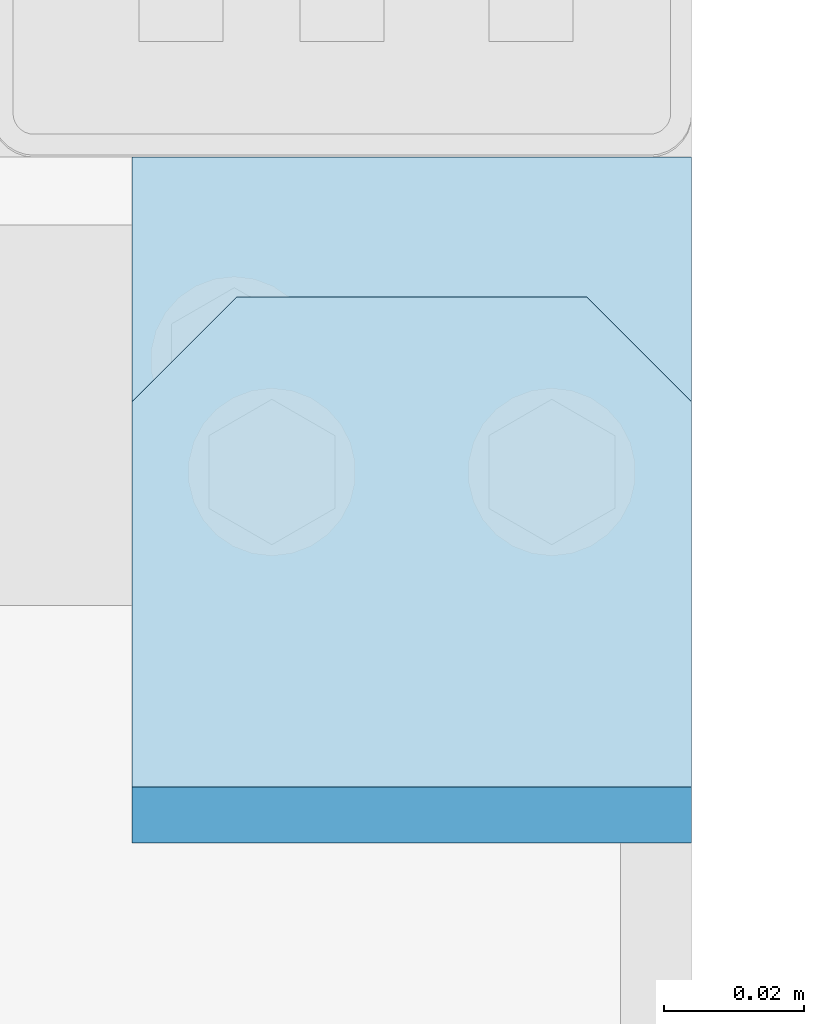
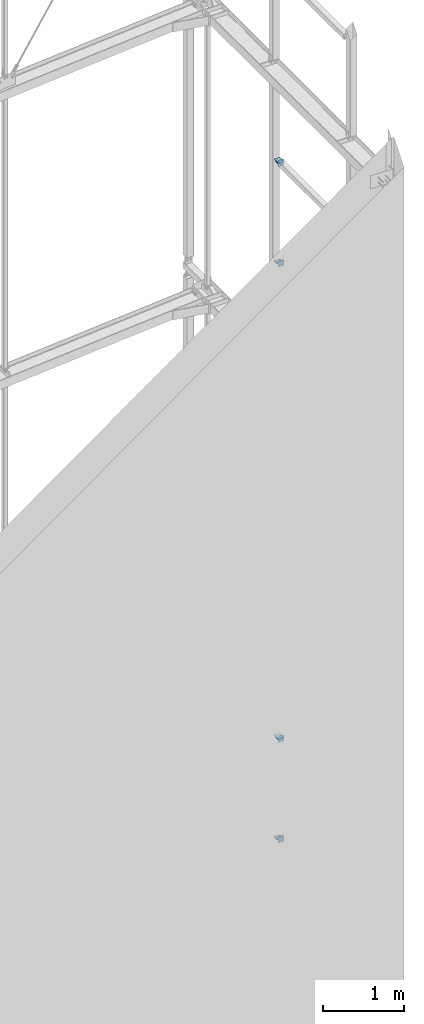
# One storey, part 174 of 271: 12 plates, 6 elements without a shape of their own.
"""IFC2X3 building model written with IfcOpenShell, lengths in millimetres."""

from ifc_helpers import new_model, si_unit, frame, origin_with_axes, place, context, subcontext, project, spatial, polyline, outline, extrude, material, type_object, element, aggregate, save


model = new_model("IFC2X3")

# Units and contexts
model_context = context("Model", 3, precision=1e-05, world=origin_with_axes())
body_context = subcontext(model_context, "Body", "Model", "MODEL_VIEW")
ifc_project = project(units=[si_unit("LENGTHUNIT", "METRE", prefix="MILLI"), si_unit("AREAUNIT", "SQUARE_METRE"), si_unit("VOLUMEUNIT", "CUBIC_METRE"), si_unit("MASSUNIT", "GRAM", prefix="KILO"), si_unit("TIMEUNIT", "SECOND"), si_unit("PLANEANGLEUNIT", "RADIAN"), si_unit("SOLIDANGLEUNIT", "STERADIAN"), si_unit("THERMODYNAMICTEMPERATUREUNIT", "DEGREE_CELSIUS"), si_unit("LUMINOUSINTENSITYUNIT", "LUMEN")], contexts=[model_context])

# Site, building, storey
site_placement = place(None, origin_with_axes())
site = spatial("IfcSite", under=ifc_project, at=site_placement, Name="Undefined", CompositionType="ELEMENT")
building_placement = place(site_placement, origin_with_axes())
building = spatial("IfcBuilding", under=site, at=building_placement, Name="Undefined", CompositionType="ELEMENT")
storey_placement = place(building_placement, origin_with_axes())
storey = spatial("IfcBuildingStorey", under=building, at=storey_placement, Name="Undefined", CompositionType="ELEMENT", Elevation=0.0)

# Assembly, plate
assembly_1_placement = place(storey_placement, origin_with_axes())
assembly_1 = element("IfcElementAssembly", 1, at=assembly_1_placement, inside=storey, AssemblyPlace="NOTDEFINED", PredefinedType="RIGID_FRAME")
ifc_material = material(Name="STEEL/S355JR")
plate_type_1 = type_object("IfcPlateType", Name="BL10*70", PredefinedType="NOTDEFINED")
plate_1_placement = place(assembly_1_placement, frame((12708.3756870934, 2714.05211980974, 2771.84999990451), z_axis=(0.0, 0.0, 1.0), x_axis=(-0.707106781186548, 0.707106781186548, 0.0)))
plate_1 = element("IfcPlate", 2, at=plate_1_placement, type_object=plate_type_1, material=ifc_material, Name="BLACHA", ObjectType="BL10*70", context=body_context, shape_type="SweptSolid", body=[
    extrude(outline(polyline([(0.0, 0.0), (21.2132034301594, 1.09139364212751e-11), (56.5685424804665, 35.3553390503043), (56.568542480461, 56.5685424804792), (17.6776695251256, 95.4594192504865), (-38.890872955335, 38.8908729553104), (0.0, 0.0)])), frame((0.0, 0.0, -5.0), z_axis=(0.0, 0.0, 1.0), x_axis=(1.0, 0.0, 0.0)), (0.0, 0.0, 1.0), 10.0),
])

assembly_2_placement = place(storey_placement, origin_with_axes())
assembly_2 = element("IfcElementAssembly", 3, at=assembly_2_placement, inside=storey, AssemblyPlace="NOTDEFINED", PredefinedType="RIGID_FRAME")
plate_2_placement = place(assembly_2_placement, frame((12708.3756870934, 2749.05211980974, 2761.84999990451), z_axis=(0.0, 0.0, 1.0), x_axis=(-1.0, 0.0, 1.38777878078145e-17)))
plate_2 = element("IfcPlate", 4, at=plate_2_placement, type_object=plate_type_1, material=ifc_material, Name="BLACHA", ObjectType="BL10*70", context=body_context, shape_type="SweptSolid", body=[
    extrude(outline(polyline([(0.0, 0.0), (80.0, 0.0), (80.0, 70.0), (0.0, 70.0), (0.0, 0.0)])), frame((0.0, 0.0, -5.0), z_axis=(0.0, 0.0, 1.0), x_axis=(1.0, 0.0, 0.0)), (0.0, 0.0, 1.0), 10.0),
])

assembly_3_placement = place(storey_placement, origin_with_axes())
assembly_3 = element("IfcElementAssembly", 5, at=assembly_3_placement, inside=storey, AssemblyPlace="NOTDEFINED", PredefinedType="RIGID_FRAME")
plate_3_placement = place(assembly_3_placement, frame((12628.3756870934, 2714.05211980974, 4276.84999990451), z_axis=(0.0, 0.0, -1.0), x_axis=(0.707106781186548, 0.707106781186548, 0.0)))
plate_3 = element("IfcPlate", 6, at=plate_3_placement, type_object=plate_type_1, material=ifc_material, Name="BLACHA", ObjectType="BL10*70", context=body_context, shape_type="SweptSolid", body=[
    extrude(outline(polyline([(0.0, 0.0), (21.2132034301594, 1.09139364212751e-11), (56.5685424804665, 35.3553390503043), (56.568542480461, 56.5685424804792), (17.6776695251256, 95.4594192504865), (-38.890872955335, 38.8908729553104), (0.0, 0.0)])), frame((0.0, 0.0, -5.0), z_axis=(0.0, 0.0, 1.0), x_axis=(1.0, 0.0, 0.0)), (0.0, 0.0, 1.0), 10.0),
])

# Plate
plate_4_placement = place(assembly_2_placement, frame((12628.3756870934, 2749.05211980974, 4286.84999990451), z_axis=(0.0, 0.0, -1.0), x_axis=(1.0, 0.0, 0.0)))
plate_4 = element("IfcPlate", 7, at=plate_4_placement, type_object=plate_type_1, material=ifc_material, Name="BLACHA", ObjectType="BL10*70", context=body_context, shape_type="SweptSolid", body=[
    extrude(outline(polyline([(0.0, 0.0), (80.0, 0.0), (80.0, 70.0), (0.0, 70.0), (0.0, 0.0)])), frame((0.0, 0.0, -5.0), z_axis=(0.0, 0.0, 1.0), x_axis=(1.0, 0.0, 0.0)), (0.0, 0.0, 1.0), 10.0),
])

aggregate(assembly_2, [plate_2, plate_4])

# Assembly, plate
assembly_4_placement = place(storey_placement, origin_with_axes())
assembly_4 = element("IfcElementAssembly", 8, at=assembly_4_placement, inside=storey, AssemblyPlace="NOTDEFINED", PredefinedType="RIGID_FRAME")
plate_5_placement = place(assembly_4_placement, frame((12708.3756870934, 2714.05211980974, 11411.8499999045), z_axis=(0.0, 0.0, 1.0), x_axis=(-0.707106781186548, 0.707106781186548, 0.0)))
plate_5 = element("IfcPlate", 9, at=plate_5_placement, type_object=plate_type_1, material=ifc_material, Name="BLACHA", ObjectType="BL10*70", context=body_context, shape_type="SweptSolid", body=[
    extrude(outline(polyline([(0.0, 0.0), (21.2132034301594, 1.09139364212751e-11), (56.5685424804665, 35.3553390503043), (56.568542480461, 56.5685424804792), (17.6776695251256, 95.4594192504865), (-38.890872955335, 38.8908729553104), (0.0, 0.0)])), frame((0.0, 0.0, -5.0), z_axis=(0.0, 0.0, 1.0), x_axis=(1.0, 0.0, 0.0)), (0.0, 0.0, 1.0), 10.0),
])

assembly_5_placement = place(storey_placement, origin_with_axes())
assembly_5 = element("IfcElementAssembly", 10, at=assembly_5_placement, inside=storey, AssemblyPlace="NOTDEFINED", PredefinedType="RIGID_FRAME")
plate_6_placement = place(assembly_5_placement, frame((12708.3756870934, 2749.05211980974, 11401.8499999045), z_axis=(0.0, 0.0, 1.0), x_axis=(-1.0, 0.0, 1.38777878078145e-17)))
plate_6 = element("IfcPlate", 11, at=plate_6_placement, type_object=plate_type_1, material=ifc_material, Name="BLACHA", ObjectType="BL10*70", context=body_context, shape_type="SweptSolid", body=[
    extrude(outline(polyline([(0.0, 0.0), (80.0, 0.0), (80.0, 70.0), (0.0, 70.0), (0.0, 0.0)])), frame((0.0, 0.0, -5.0), z_axis=(0.0, 0.0, 1.0), x_axis=(1.0, 0.0, 0.0)), (0.0, 0.0, 1.0), 10.0),
])

assembly_6_placement = place(storey_placement, origin_with_axes())
assembly_6 = element("IfcElementAssembly", 12, at=assembly_6_placement, inside=storey, AssemblyPlace="NOTDEFINED", PredefinedType="RIGID_FRAME")
plate_7_placement = place(assembly_6_placement, frame((12628.3756870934, 2714.05211980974, 12916.8499999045), z_axis=(0.0, 0.0, -1.0), x_axis=(0.707106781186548, 0.707106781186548, 0.0)))
plate_7 = element("IfcPlate", 13, at=plate_7_placement, type_object=plate_type_1, material=ifc_material, Name="BLACHA", ObjectType="BL10*70", context=body_context, shape_type="SweptSolid", body=[
    extrude(outline(polyline([(0.0, 0.0), (21.2132034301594, 1.09139364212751e-11), (56.5685424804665, 35.3553390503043), (56.568542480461, 56.5685424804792), (17.6776695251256, 95.4594192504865), (-38.890872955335, 38.8908729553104), (0.0, 0.0)])), frame((0.0, 0.0, -5.0), z_axis=(0.0, 0.0, 1.0), x_axis=(1.0, 0.0, 0.0)), (0.0, 0.0, 1.0), 10.0),
])

# Plate
plate_8_placement = place(assembly_5_placement, frame((12628.3756870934, 2749.05211980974, 12926.8499999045), z_axis=(0.0, 0.0, -1.0), x_axis=(1.0, 0.0, 0.0)))
plate_8 = element("IfcPlate", 14, at=plate_8_placement, type_object=plate_type_1, material=ifc_material, Name="BLACHA", ObjectType="BL10*70", context=body_context, shape_type="SweptSolid", body=[
    extrude(outline(polyline([(0.0, 0.0), (80.0, 0.0), (80.0, 70.0), (0.0, 70.0), (0.0, 0.0)])), frame((0.0, 0.0, -5.0), z_axis=(0.0, 0.0, 1.0), x_axis=(1.0, 0.0, 0.0)), (0.0, 0.0, 1.0), 10.0),
])

aggregate(assembly_5, [plate_6, plate_8])

plate_type_2 = type_object("IfcPlateType", Name="BL8*80", PredefinedType="NOTDEFINED")
plate_9_placement = place(assembly_1_placement, frame((12708.3756870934, 2655.05211980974, 2731.84999990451), z_axis=(0.0, 1.0, 0.0), x_axis=(-1.0, 0.0, 1.38777878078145e-17)))
plate_9 = element("IfcPlate", 15, at=plate_9_placement, type_object=plate_type_2, material=ifc_material, Name="BLACHA", ObjectType="BL8*80", context=body_context, shape_type="SweptSolid", body=[
    extrude(outline(polyline([(0.0, 0.0), (80.0, 0.0), (80.0, 80.0), (0.0, 80.0), (0.0, 0.0)])), frame((0.0, 0.0, -4.0), z_axis=(0.0, 0.0, 1.0), x_axis=(1.0, 0.0, 0.0)), (0.0, 0.0, 1.0), 8.0),
])

aggregate(assembly_1, [plate_9, plate_1])

plate_10_placement = place(assembly_3_placement, frame((12628.3756870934, 2655.05211980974, 4316.84999990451), z_axis=(0.0, 1.0, 0.0), x_axis=(1.0, 0.0, 0.0)))
plate_10 = element("IfcPlate", 16, at=plate_10_placement, type_object=plate_type_2, material=ifc_material, Name="BLACHA", ObjectType="BL8*80", context=body_context, shape_type="SweptSolid", body=[
    extrude(outline(polyline([(0.0, 0.0), (80.0, 0.0), (80.0, 80.0), (0.0, 80.0), (0.0, 0.0)])), frame((0.0, 0.0, -4.0), z_axis=(0.0, 0.0, 1.0), x_axis=(1.0, 0.0, 0.0)), (0.0, 0.0, 1.0), 8.0),
])

aggregate(assembly_3, [plate_10, plate_3])

plate_11_placement = place(assembly_4_placement, frame((12708.3756870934, 2655.05211980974, 11371.8499999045), z_axis=(0.0, 1.0, 0.0), x_axis=(-1.0, 0.0, 1.38777878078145e-17)))
plate_11 = element("IfcPlate", 17, at=plate_11_placement, type_object=plate_type_2, material=ifc_material, Name="BLACHA", ObjectType="BL8*80", context=body_context, shape_type="SweptSolid", body=[
    extrude(outline(polyline([(0.0, 0.0), (80.0, 0.0), (80.0, 80.0), (0.0, 80.0), (0.0, 0.0)])), frame((0.0, 0.0, -4.0), z_axis=(0.0, 0.0, 1.0), x_axis=(1.0, 0.0, 0.0)), (0.0, 0.0, 1.0), 8.0),
])

aggregate(assembly_4, [plate_11, plate_5])

plate_12_placement = place(assembly_6_placement, frame((12628.3756870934, 2655.05211980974, 12956.8499999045), z_axis=(0.0, 1.0, 0.0), x_axis=(1.0, 0.0, 0.0)))
plate_12 = element("IfcPlate", 18, at=plate_12_placement, type_object=plate_type_2, material=ifc_material, Name="BLACHA", ObjectType="BL8*80", context=body_context, shape_type="SweptSolid", body=[
    extrude(outline(polyline([(0.0, 0.0), (80.0, 0.0), (80.0, 80.0), (0.0, 80.0), (0.0, 0.0)])), frame((0.0, 0.0, -4.0), z_axis=(0.0, 0.0, 1.0), x_axis=(1.0, 0.0, 0.0)), (0.0, 0.0, 1.0), 8.0),
])

aggregate(assembly_6, [plate_12, plate_7])

save(model, "model.ifc")
